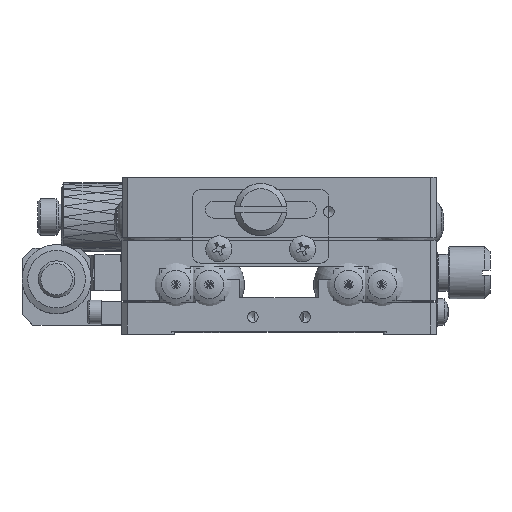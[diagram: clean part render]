
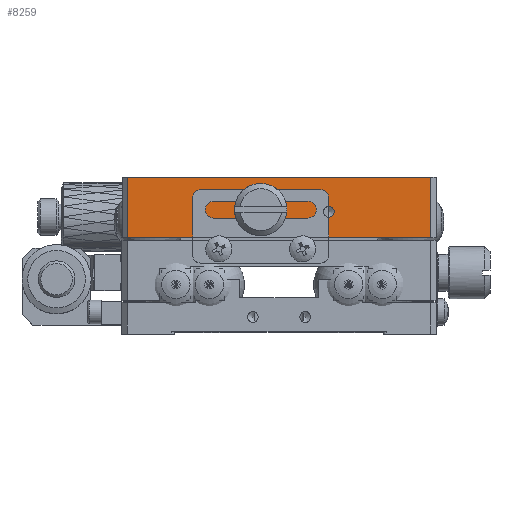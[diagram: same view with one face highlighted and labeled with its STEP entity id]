
A CAD part, top view. The second image highlights one B-rep face of the part: STEP entity #8259.
In plain terms, the highlighted planar face has unit normal (0, 0, 1).
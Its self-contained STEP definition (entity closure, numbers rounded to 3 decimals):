
#865 = LINE ( 'NONE', #100625, #68190 ) ;
#1654 = CARTESIAN_POINT ( 'NONE',  ( 23.503, 17.3, 60.003 ) ) ;
#3071 = DIRECTION ( 'NONE',  ( 1., 0., 0. ) ) ;
#7774 = LINE ( 'NONE', #73977, #51126 ) ;
#7963 = CARTESIAN_POINT ( 'NONE',  ( 1.003, 12.3, 60.003 ) ) ;
#8259 = ADVANCED_FACE ( 'NONE', ( #81619, #123412, #68009, #112433 ), #26311, .F. ) ;
#9451 = VECTOR ( 'NONE', #12299, 1000. ) ;
#11494 = CARTESIAN_POINT ( 'NONE',  ( 59.003, 23.9, 60.003 ) ) ;
#11632 = EDGE_LOOP ( 'NONE', ( #115707 ) ) ;
#12299 = DIRECTION ( 'NONE',  ( 1., 0., 0. ) ) ;
#12782 = EDGE_LOOP ( 'NONE', ( #94372, #112778, #54602, #128057 ) ) ;
#13725 = LINE ( 'NONE', #67600, #9451 ) ;
#15433 = EDGE_CURVE ( 'NONE', #110858, #122857, #865, .T. ) ;
#17859 = CARTESIAN_POINT ( 'NONE',  ( 27.753, 17.7, 60.003 ) ) ;
#21821 = CARTESIAN_POINT ( 'NONE',  ( 59.003, 12.3, 60.003 ) ) ;
#22717 = DIRECTION ( 'NONE',  ( 1., 0., 0. ) ) ;
#25033 = ORIENTED_EDGE ( 'NONE', *, *, #53714, .F. ) ;
#26311 = PLANE ( 'NONE',  #110603 ) ;
#26448 = AXIS2_PLACEMENT_3D ( 'NONE', #1654, #134924, #3071 ) ;
#32066 = EDGE_CURVE ( 'NONE', #55629, #110858, #7774, .T. ) ;
#33584 = VERTEX_POINT ( 'NONE', #67051 ) ;
#33624 = CARTESIAN_POINT ( 'NONE',  ( 26.503, 17.7, 60.003 ) ) ;
#34587 = EDGE_CURVE ( 'NONE', #103848, #122857, #13725, .T. ) ;
#35551 = EDGE_LOOP ( 'NONE', ( #25033 ) ) ;
#40988 = CIRCLE ( 'NONE', #78182, 1.025 ) ;
#41726 = DIRECTION ( 'NONE',  ( 0., -1., 0. ) ) ;
#42396 = DIRECTION ( 'NONE',  ( 0., 0., 1. ) ) ;
#42648 = CIRCLE ( 'NONE', #26448, 1.025 ) ;
#42847 = EDGE_CURVE ( 'NONE', #57740, #57740, #42648, .T. ) ;
#43421 = DIRECTION ( 'NONE',  ( 0., 0., 1. ) ) ;
#44617 = CIRCLE ( 'NONE', #51570, 1.25 ) ;
#45293 = DIRECTION ( 'NONE',  ( 0., 1., 0. ) ) ;
#46203 = DIRECTION ( 'NONE',  ( 0., 0., -1. ) ) ;
#51126 = VECTOR ( 'NONE', #108957, 1000. ) ;
#51570 = AXIS2_PLACEMENT_3D ( 'NONE', #33624, #42396, #22717 ) ;
#53714 = EDGE_CURVE ( 'NONE', #33584, #33584, #40988, .T. ) ;
#54086 = LINE ( 'NONE', #141493, #129824 ) ;
#54602 = ORIENTED_EDGE ( 'NONE', *, *, #32066, .T. ) ;
#55629 = VERTEX_POINT ( 'NONE', #7963 ) ;
#57740 = VERTEX_POINT ( 'NONE', #102158 ) ;
#57901 = CARTESIAN_POINT ( 'NONE',  ( 39.503, 17.3, 60.003 ) ) ;
#67051 = CARTESIAN_POINT ( 'NONE',  ( 40.528, 17.3, 60.003 ) ) ;
#67600 = CARTESIAN_POINT ( 'NONE',  ( 0.003, 23.9, 60.003 ) ) ;
#68009 = FACE_BOUND ( 'NONE', #140234, .T. ) ;
#68190 = VECTOR ( 'NONE', #45293, 1000. ) ;
#71337 = CARTESIAN_POINT ( 'NONE',  ( 1.003, 23.9, 60.003 ) ) ;
#71674 = DIRECTION ( 'NONE',  ( 1., 0., 0. ) ) ;
#73977 = CARTESIAN_POINT ( 'NONE',  ( 0.003, 12.3, 60.003 ) ) ;
#78182 = AXIS2_PLACEMENT_3D ( 'NONE', #57901, #43421, #71674 ) ;
#81619 = FACE_BOUND ( 'NONE', #35551, .T. ) ;
#93602 = VERTEX_POINT ( 'NONE', #17859 ) ;
#94372 = ORIENTED_EDGE ( 'NONE', *, *, #34587, .F. ) ;
#97209 = ORIENTED_EDGE ( 'NONE', *, *, #110433, .F. ) ;
#100625 = CARTESIAN_POINT ( 'NONE',  ( 59.003, 23.9, 60.003 ) ) ;
#101544 = CARTESIAN_POINT ( 'NONE',  ( 0.003, 23.9, 60.003 ) ) ;
#102158 = CARTESIAN_POINT ( 'NONE',  ( 24.528, 17.3, 60.003 ) ) ;
#103848 = VERTEX_POINT ( 'NONE', #71337 ) ;
#108957 = DIRECTION ( 'NONE',  ( 1., 0., 0. ) ) ;
#110433 = EDGE_CURVE ( 'NONE', #93602, #93602, #44617, .T. ) ;
#110603 = AXIS2_PLACEMENT_3D ( 'NONE', #101544, #46203, #128930 ) ;
#110858 = VERTEX_POINT ( 'NONE', #21821 ) ;
#112433 = FACE_OUTER_BOUND ( 'NONE', #12782, .T. ) ;
#112778 = ORIENTED_EDGE ( 'NONE', *, *, #130964, .T. ) ;
#115707 = ORIENTED_EDGE ( 'NONE', *, *, #42847, .F. ) ;
#122857 = VERTEX_POINT ( 'NONE', #11494 ) ;
#123412 = FACE_BOUND ( 'NONE', #11632, .T. ) ;
#128057 = ORIENTED_EDGE ( 'NONE', *, *, #15433, .T. ) ;
#128930 = DIRECTION ( 'NONE',  ( -1., 0., 0. ) ) ;
#129824 = VECTOR ( 'NONE', #41726, 1000. ) ;
#130964 = EDGE_CURVE ( 'NONE', #103848, #55629, #54086, .T. ) ;
#134924 = DIRECTION ( 'NONE',  ( 0., 0., 1. ) ) ;
#140234 = EDGE_LOOP ( 'NONE', ( #97209 ) ) ;
#141493 = CARTESIAN_POINT ( 'NONE',  ( 1.003, 23.9, 60.003 ) ) ;
